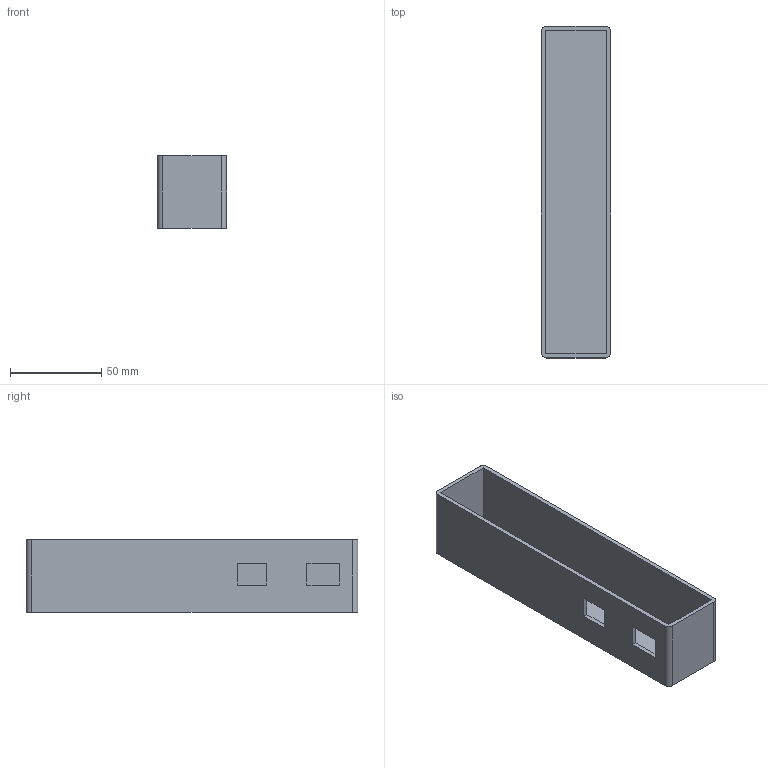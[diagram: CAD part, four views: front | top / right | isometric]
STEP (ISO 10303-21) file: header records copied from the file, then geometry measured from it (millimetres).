
FILE_DESCRIPTION(('FreeCAD Model'),'2;1');
FILE_NAME('Open CASCADE Shape Model','2026-10-31T13:49:49',('FreeCAD'),( 'FreeCAD'),'Open CASCADE STEP processor 7.8','FreeCAD','Unknown');
FILE_SCHEMA(('AUTOMOTIVE_DESIGN { 1 0 10303 214 1 1 1 1 }'));
Length unit declared in the file: millimetre
Products named in the file (1): Open CASCADE STEP translator 7.8 31
Bounding box: 38 x 182 x 40 mm (x, y, z)
Volume: 54149.5 mm3; surface area: 46495 mm2
Topology: 1 solids, 1 shells, 23 faces, 60 edges, 40 vertices
Faces by surface type: plane 19, cylinder 4
Entity records: 720 total; most frequent: CARTESIAN_POINT 124, ORIENTED_EDGE 120, DIRECTION 116, EDGE_CURVE 60, LINE 52, VECTOR 52, VERTEX_POINT 40, AXIS2_PLACEMENT_3D 32
